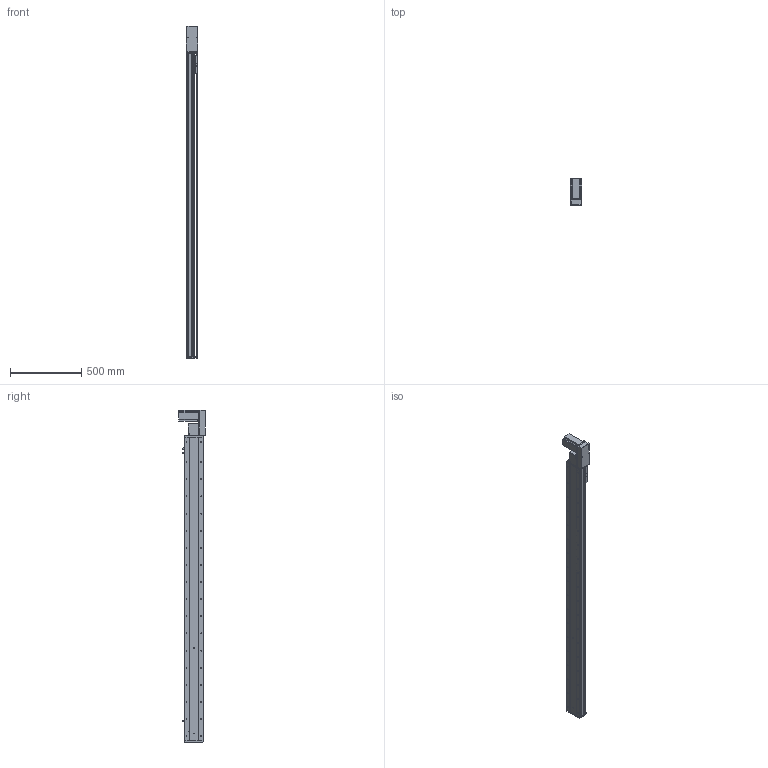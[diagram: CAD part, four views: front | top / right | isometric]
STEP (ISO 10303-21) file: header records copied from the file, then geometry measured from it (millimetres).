
FILE_DESCRIPTION (( 'STEP AP214' ), '1' );
FILE_NAME ('KSD130B-S1900-MLB-CM.STEP', '2019-09-19T09:03:12', ( '微软用户' ), ( '微软中国' ), 'SwSTEP 2.0', 'SolidWorks 2014', '' );
FILE_SCHEMA (( 'AUTOMOTIVE_DESIGN' ));
Length unit declared in the file: millimetre
Products named in the file (12): 130宽底板半封闭同步带-1900行程; KSD130B-S1900-MLB-CM; 台达ECMA－C20807AS伺服电机; 130宽模组保护罩上下左右折-同步带; 130宽模组马达安装板连板左右折同步带; 覜茼え100遵圉猾敕; U倰嫖萇EEㄜSX672; 130宽盖板半封闭同步带-1900行程; 130宽马达安装板同步带左-改; 130宽马达安装板同步带半封闭; 130宽同步带安装座半封闭; 130宽端盖同步带半封闭
Assembly tree (13 placements, depth 2):
  KSD130B-S1900-MLB-CM
    130宽底板半封闭同步带-1900行程
    130宽端盖同步带半封闭
    130宽同步带安装座半封闭
    130宽马达安装板同步带半封闭
    130宽马达安装板同步带左-改
    130宽盖板半封闭同步带-1900行程
    U倰嫖萇EEㄜSX672  x3
    覜茼え100遵圉猾敕
    130宽模组马达安装板连板左右折同步带
    130宽模组保护罩上下左右折-同步带
    台达ECMA－C20807AS伺服电机
Bounding box: 82.5 x 184.8 x 2327 mm (x, y, z)
Volume: 7416640.6 mm3; surface area: 2106736.5 mm2
Topology: 14 solids, 14 shells, 1757 faces, 5121 edges, 3241 vertices
Faces by surface type: cylinder 868, plane 654, cone 235
Entity records: 60099 total; most frequent: CARTESIAN_POINT 11670, DIRECTION 9043, ORIENTED_EDGE 8758, EDGE_CURVE 4379, AXIS2_PLACEMENT_3D 3334, VERTEX_POINT 2865, VECTOR 2375, LINE 2375
